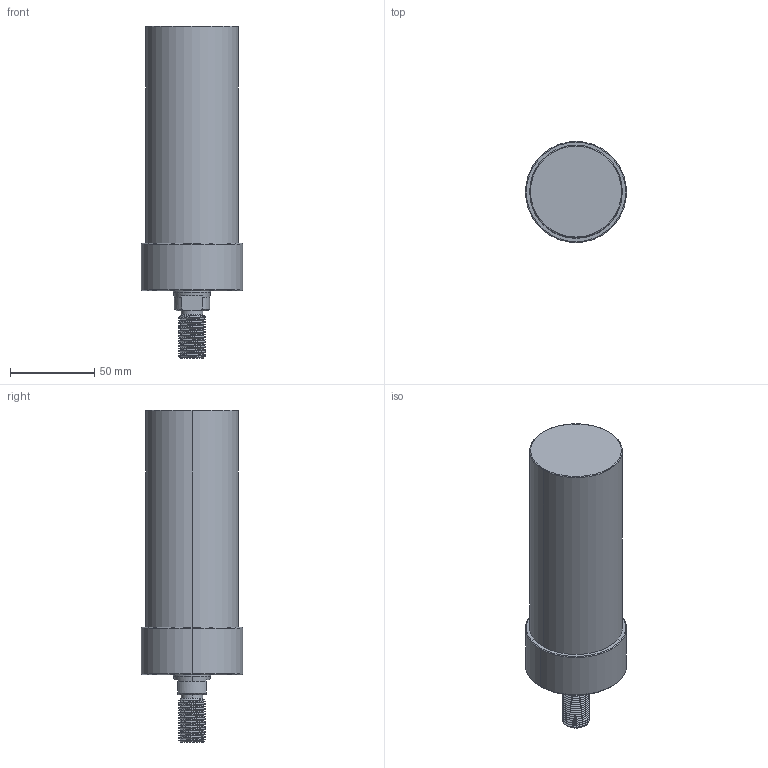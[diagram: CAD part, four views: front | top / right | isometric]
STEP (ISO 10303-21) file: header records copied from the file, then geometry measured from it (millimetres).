
FILE_DESCRIPTION (( 'STEP AP203' ), '1' );
FILE_NAME ('CLLU-055GT-100.STEP', '2020-01-16T01:52:39', ( '' ), ( '' ), 'SwSTEP 2.0', 'SolidWorks 2015', '' );
FILE_SCHEMA (( 'CONFIG_CONTROL_DESIGN' ));
Length unit declared in the file: millimetre
Products named in the file (1): CLLU-055GT-100
Bounding box: 60 x 60 x 197 mm (x, y, z)
Volume: 392910.3 mm3; surface area: 37277.3 mm2
Topology: 1 solids, 1 shells, 102 faces, 254 edges, 155 vertices
Faces by surface type: cylinder 56, cone 26, plane 12, torus 6, bspline 2
Entity records: 4906 total; most frequent: CARTESIAN_POINT 2615, ORIENTED_EDGE 492, DIRECTION 445, EDGE_CURVE 246, AXIS2_PLACEMENT_3D 178, VERTEX_POINT 155, EDGE_LOOP 111, ADVANCED_FACE 102
